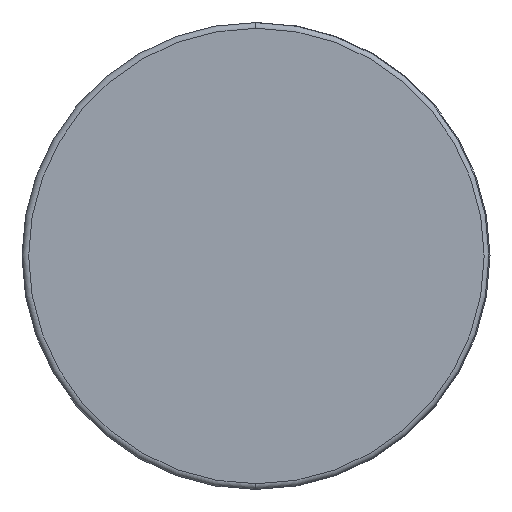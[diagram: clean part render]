
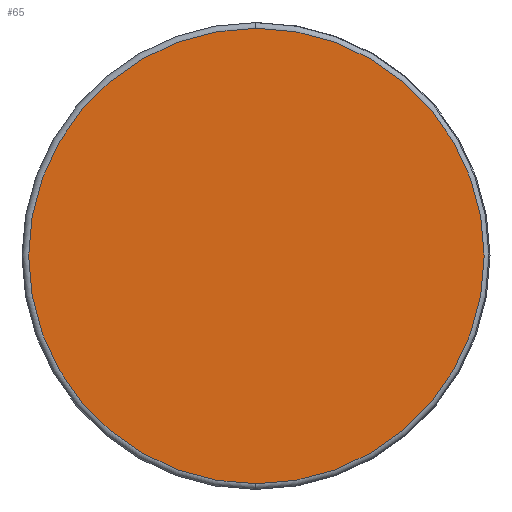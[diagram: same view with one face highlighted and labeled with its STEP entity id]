
A CAD part, front view. The second image highlights one B-rep face of the part: STEP entity #65.
In plain terms, the highlighted planar face has unit normal (0, -1, 0).
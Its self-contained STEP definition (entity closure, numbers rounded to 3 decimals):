
#49 = CIRCLE ( 'NONE', #320, 20. ) ;
#52 = CARTESIAN_POINT ( 'NONE',  ( 0., 0., 0. ) ) ;
#64 = ORIENTED_EDGE ( 'NONE', *, *, #502, .F. ) ;
#65 = ADVANCED_FACE ( 'NONE', ( #314 ), #253, .F. ) ;
#82 = DIRECTION ( 'NONE',  ( 0., 1., 0. ) ) ;
#98 = DIRECTION ( 'NONE',  ( 0., 1., 0. ) ) ;
#129 = AXIS2_PLACEMENT_3D ( 'NONE', #52, #98, #471 ) ;
#136 = DIRECTION ( 'NONE',  ( 0., 0., 1. ) ) ;
#141 = CARTESIAN_POINT ( 'NONE',  ( 0., 0., 20. ) ) ;
#253 = PLANE ( 'NONE',  #129 ) ;
#278 = EDGE_LOOP ( 'NONE', ( #322, #64 ) ) ;
#295 = CIRCLE ( 'NONE', #402, 20. ) ;
#314 = FACE_OUTER_BOUND ( 'NONE', #278, .T. ) ;
#320 = AXIS2_PLACEMENT_3D ( 'NONE', #398, #604, #136 ) ;
#322 = ORIENTED_EDGE ( 'NONE', *, *, #468, .F. ) ;
#398 = CARTESIAN_POINT ( 'NONE',  ( 0., 0., 0. ) ) ;
#402 = AXIS2_PLACEMENT_3D ( 'NONE', #440, #82, #644 ) ;
#440 = CARTESIAN_POINT ( 'NONE',  ( 0., 0., 0. ) ) ;
#468 = EDGE_CURVE ( 'NONE', #641, #557, #49, .T. ) ;
#471 = DIRECTION ( 'NONE',  ( 0., 0., 1. ) ) ;
#502 = EDGE_CURVE ( 'NONE', #557, #641, #295, .T. ) ;
#518 = CARTESIAN_POINT ( 'NONE',  ( 0., 0., -20. ) ) ;
#557 = VERTEX_POINT ( 'NONE', #141 ) ;
#604 = DIRECTION ( 'NONE',  ( 0., 1., 0. ) ) ;
#641 = VERTEX_POINT ( 'NONE', #518 ) ;
#644 = DIRECTION ( 'NONE',  ( 0., 0., 1. ) ) ;
